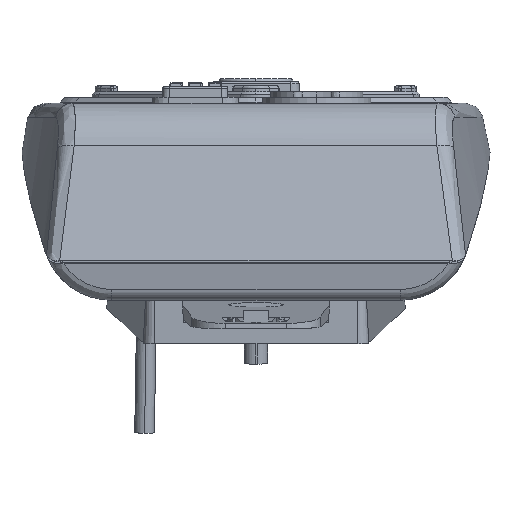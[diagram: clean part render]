
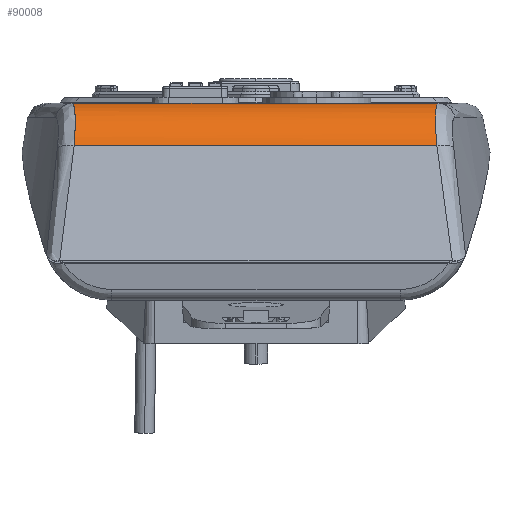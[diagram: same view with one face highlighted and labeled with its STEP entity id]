
A CAD part, left-side view. The second image highlights one B-rep face of the part: STEP entity #90008.
In plain terms, the highlighted cylindrical face has radius 10 mm (diameter 20 mm), a partial arc.
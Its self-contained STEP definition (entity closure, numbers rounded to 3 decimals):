
#318 = DIRECTION ( 'NONE',  ( 0., -1., 0. ) ) ;
#422 = CARTESIAN_POINT ( 'NONE',  ( -30.557, -6.201, 7.148 ) ) ;
#1106 = CARTESIAN_POINT ( 'NONE',  ( -28.736, -6.196, 8.914 ) ) ;
#1352 = CARTESIAN_POINT ( 'NONE',  ( -29.879, 56.161, 7.915 ) ) ;
#1467 = CARTESIAN_POINT ( 'NONE',  ( -29.89, -6.185, 7.918 ) ) ;
#3870 = CARTESIAN_POINT ( 'NONE',  ( -32.382, 56.338, 3.543 ) ) ;
#4976 = CARTESIAN_POINT ( 'NONE',  ( -25.938, -6.327, 10.388 ) ) ;
#5658 = CARTESIAN_POINT ( 'NONE',  ( -26.49, -6.291, 10.182 ) ) ;
#9347 = CARTESIAN_POINT ( 'NONE',  ( -28.741, 56.187, 8.924 ) ) ;
#9614 = EDGE_LOOP ( 'NONE', ( #31634, #73219, #66463, #94919 ) ) ;
#13635 = CARTESIAN_POINT ( 'NONE',  ( -27.458, -6.238, 9.743 ) ) ;
#16085 = CARTESIAN_POINT ( 'NONE',  ( -28.936, -6.192, 8.76 ) ) ;
#16115 = AXIS2_PLACEMENT_3D ( 'NONE', #94578, #318, #72109 ) ;
#16427 = CARTESIAN_POINT ( 'NONE',  ( -30.787, -6.211, 6.844 ) ) ;
#18031 = CARTESIAN_POINT ( 'NONE',  ( -29.319, 56.171, 8.44 ) ) ;
#19057 = DIRECTION ( 'NONE',  ( 0., 1., 0. ) ) ;
#19545 = EDGE_CURVE ( 'NONE', #86412, #81606, #73789, .T. ) ;
#22069 = CARTESIAN_POINT ( 'NONE',  ( -23.564, 25.026, 10.879 ) ) ;
#24403 = EDGE_CURVE ( 'NONE', #61675, #86412, #62501, .T. ) ;
#26022 = CARTESIAN_POINT ( 'NONE',  ( -29.604, 56.165, 8.182 ) ) ;
#26367 = CARTESIAN_POINT ( 'NONE',  ( -30.562, 56.162, 7.158 ) ) ;
#27312 = CARTESIAN_POINT ( 'NONE',  ( -23.564, 56.573, 10.879 ) ) ;
#27839 = CARTESIAN_POINT ( 'NONE',  ( -32.112, 56.261, 4.536 ) ) ;
#29109 = CARTESIAN_POINT ( 'NONE',  ( -32.382, 56.338, 3.543 ) ) ;
#31634 = ORIENTED_EDGE ( 'NONE', *, *, #82626, .F. ) ;
#32065 = CARTESIAN_POINT ( 'NONE',  ( -32.382, -6.42, 3.543 ) ) ;
#33097 = CARTESIAN_POINT ( 'NONE',  ( -31.079, -6.227, 6.425 ) ) ;
#34351 = CARTESIAN_POINT ( 'NONE',  ( -28.33, 56.204, 9.217 ) ) ;
#37267 = CARTESIAN_POINT ( 'NONE',  ( -24.085, -6.472, 10.836 ) ) ;
#38272 = CARTESIAN_POINT ( 'NONE',  ( -25.58, -6.352, 10.504 ) ) ;
#40354 = CARTESIAN_POINT ( 'NONE',  ( -30.862, -6.215, 6.741 ) ) ;
#40936 = CARTESIAN_POINT ( 'NONE',  ( -30.056, 56.16, 7.73 ) ) ;
#41639 = CARTESIAN_POINT ( 'NONE',  ( -26.725, 56.298, 10.083 ) ) ;
#41983 = CARTESIAN_POINT ( 'NONE',  ( -23.564, 56.573, 10.879 ) ) ;
#45212 = CARTESIAN_POINT ( 'NONE',  ( -25.337, -6.37, 10.573 ) ) ;
#45547 = CARTESIAN_POINT ( 'NONE',  ( -28.113, -6.213, 9.348 ) ) ;
#48257 = LINE ( 'NONE', #73439, #92846 ) ;
#48661 = CARTESIAN_POINT ( 'NONE',  ( -28.634, -6.198, 8.989 ) ) ;
#48889 = CARTESIAN_POINT ( 'NONE',  ( -31.689, 56.209, 5.477 ) ) ;
#49590 = CARTESIAN_POINT ( 'NONE',  ( -26.576, 56.309, 10.147 ) ) ;
#55026 = VERTEX_POINT ( 'NONE', #29109 ) ;
#56850 = CARTESIAN_POINT ( 'NONE',  ( -29.172, 56.175, 8.567 ) ) ;
#56968 = CARTESIAN_POINT ( 'NONE',  ( -31.008, -6.223, 6.532 ) ) ;
#57198 = CARTESIAN_POINT ( 'NONE',  ( -26.636, 56.305, 10.122 ) ) ;
#57905 = CARTESIAN_POINT ( 'NONE',  ( -27.677, 56.238, 9.611 ) ) ;
#60817 = CARTESIAN_POINT ( 'NONE',  ( -26.463, -6.293, 10.193 ) ) ;
#61149 = CARTESIAN_POINT ( 'NONE',  ( -26.999, -6.261, 9.974 ) ) ;
#61675 = VERTEX_POINT ( 'NONE', #27312 ) ;
#62501 = LINE ( 'NONE', #22069, #88489 ) ;
#64315 = CYLINDRICAL_SURFACE ( 'NONE', #16115, 10. ) ;
#64976 = CARTESIAN_POINT ( 'NONE',  ( -28.325, -6.206, 9.209 ) ) ;
#64988 = CARTESIAN_POINT ( 'NONE',  ( -32.382, -6.42, 3.543 ) ) ;
#66463 = ORIENTED_EDGE ( 'NONE', *, *, #19545, .F. ) ;
#66657 = EDGE_CURVE ( 'NONE', #81606, #55026, #48257, .T. ) ;
#66909 = FACE_OUTER_BOUND ( 'NONE', #9614, .T. ) ;
#72109 = DIRECTION ( 'NONE',  ( 1., 0., 0. ) ) ;
#72206 = CARTESIAN_POINT ( 'NONE',  ( -29.032, -6.19, 8.683 ) ) ;
#72450 = CARTESIAN_POINT ( 'NONE',  ( -26.544, 56.311, 10.16 ) ) ;
#72889 = CARTESIAN_POINT ( 'NONE',  ( -31.69, -6.27, 5.475 ) ) ;
#73219 = ORIENTED_EDGE ( 'NONE', *, *, #66657, .F. ) ;
#73439 = CARTESIAN_POINT ( 'NONE',  ( -32.382, 25.026, 3.543 ) ) ;
#73453 = CARTESIAN_POINT ( 'NONE',  ( -29.464, 56.168, 8.313 ) ) ;
#73789 = B_SPLINE_CURVE_WITH_KNOTS ( 'NONE', 3,
 ( #85356, #37267, #92940, #45212, #38272, #4976, #76355, #100185, #85027, #60817, #5658, #61149, #13635, #45547, #64976, #48661, #1106, #16085, #72206, #88441, #1467, #87438, #422, #16427, #40354, #56968, #33097, #72889, #95361, #32065 ),
 .UNSPECIFIED., .F., .F.,
 ( 4, 2, 2, 1, 1, 2, 2, 2, 2, 2, 2, 2, 2, 2, 2, 4 ),
 ( 0., 0.125, 0.187, 0.219, 0.234, 0.242, 0.25, 0.375, 0.437, 0.469, 0.5, 0.625, 0.687, 0.719, 0.75, 1. ),
 .UNSPECIFIED. ) ;
#76355 = CARTESIAN_POINT ( 'NONE',  ( -26.115, -6.315, 10.327 ) ) ;
#76441 = DIRECTION ( 'NONE',  ( 0., -1., 0. ) ) ;
#81053 = CARTESIAN_POINT ( 'NONE',  ( -25.612, 56.378, 10.541 ) ) ;
#81407 = CARTESIAN_POINT ( 'NONE',  ( -27.107, 56.273, 9.908 ) ) ;
#81606 = VERTEX_POINT ( 'NONE', #64988 ) ;
#81750 = CARTESIAN_POINT ( 'NONE',  ( -27.452, 56.251, 9.735 ) ) ;
#82626 = EDGE_CURVE ( 'NONE', #55026, #61675, #87495, .T. ) ;
#85027 = CARTESIAN_POINT ( 'NONE',  ( -26.405, -6.297, 10.216 ) ) ;
#85356 = CARTESIAN_POINT ( 'NONE',  ( -23.564, -6.522, 10.879 ) ) ;
#86412 = VERTEX_POINT ( 'NONE', #92107 ) ;
#87438 = CARTESIAN_POINT ( 'NONE',  ( -30.396, -6.196, 7.345 ) ) ;
#87495 = B_SPLINE_CURVE_WITH_KNOTS ( 'NONE', 3,
 ( #3870, #27839, #48889, #88677, #26367, #40936, #1352, #26022, #73453, #18031, #96978, #56850, #9347, #34351, #57905, #81750, #81407, #96630, #41639, #57198, #49590, #72450, #81053, #89366, #41983 ),
 .UNSPECIFIED., .F., .F.,
 ( 4, 2, 2, 2, 1, 2, 2, 2, 2, 1, 1, 2, 2, 4 ),
 ( 0., 0.25, 0.375, 0.438, 0.469, 0.484, 0.5, 0.625, 0.688, 0.719, 0.734, 0.742, 0.75, 1. ),
 .UNSPECIFIED. ) ;
#88441 = CARTESIAN_POINT ( 'NONE',  ( -29.523, -6.184, 8.274 ) ) ;
#88489 = VECTOR ( 'NONE', #76441, 1000. ) ;
#88677 = CARTESIAN_POINT ( 'NONE',  ( -30.869, 56.169, 6.752 ) ) ;
#89366 = CARTESIAN_POINT ( 'NONE',  ( -24.615, 56.465, 10.792 ) ) ;
#90008 = ADVANCED_FACE ( 'NONE', ( #66909 ), #64315, .T. ) ;
#92107 = CARTESIAN_POINT ( 'NONE',  ( -23.564, -6.522, 10.879 ) ) ;
#92846 = VECTOR ( 'NONE', #19057, 1000. ) ;
#92940 = CARTESIAN_POINT ( 'NONE',  ( -24.595, -6.428, 10.752 ) ) ;
#94578 = CARTESIAN_POINT ( 'NONE',  ( -22.734, 56.952, 0.914 ) ) ;
#94919 = ORIENTED_EDGE ( 'NONE', *, *, #24403, .F. ) ;
#95361 = CARTESIAN_POINT ( 'NONE',  ( -32.112, -6.333, 4.536 ) ) ;
#96630 = CARTESIAN_POINT ( 'NONE',  ( -26.933, 56.284, 9.992 ) ) ;
#96978 = CARTESIAN_POINT ( 'NONE',  ( -29.222, 56.174, 8.524 ) ) ;
#100185 = CARTESIAN_POINT ( 'NONE',  ( -26.319, -6.302, 10.25 ) ) ;
